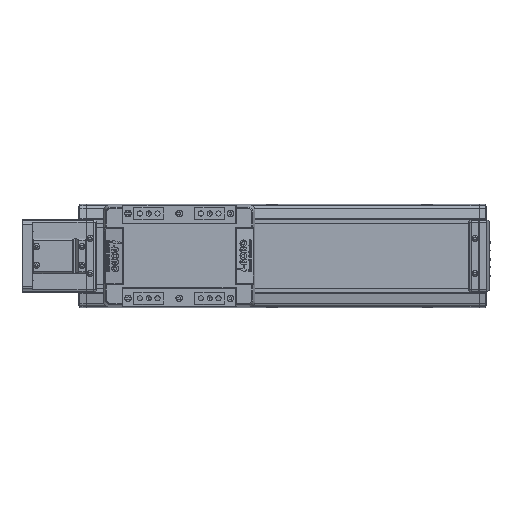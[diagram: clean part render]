
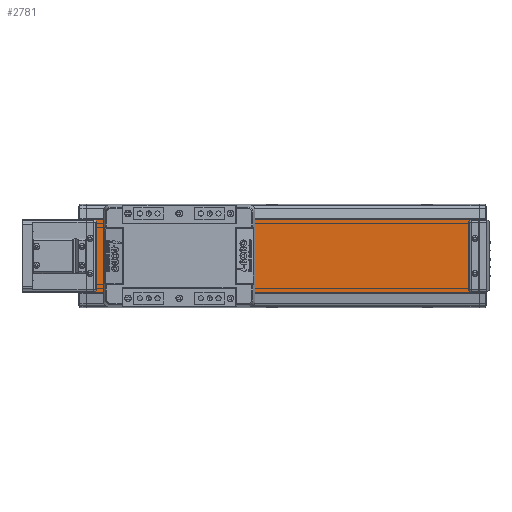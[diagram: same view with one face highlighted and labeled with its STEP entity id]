
A CAD part, top view. The second image highlights one B-rep face of the part: STEP entity #2781.
In plain terms, the highlighted planar face has unit normal (0, 0, 1).
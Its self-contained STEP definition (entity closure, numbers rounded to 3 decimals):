
#2781=ADVANCED_FACE('',(#7721),#7722,.T.);
#7721=FACE_OUTER_BOUND('',#15406,.T.);
#7722=PLANE('',#15407);
#15406=EDGE_LOOP('',(#23733,#23734,#23735,#23736));
#15407=AXIS2_PLACEMENT_3D('',#23737,#23738,#23739);
#23733=ORIENTED_EDGE('',*,*,#45446,.T.);
#23734=ORIENTED_EDGE('',*,*,#45447,.F.);
#23735=ORIENTED_EDGE('',*,*,#45448,.T.);
#23736=ORIENTED_EDGE('',*,*,#45449,.T.);
#23737=CARTESIAN_POINT('',(-580.,0.,20.15));
#23738=DIRECTION('',(0.,0.,1.0));
#23739=DIRECTION('',(0.,-1.0,0.));
#45446=EDGE_CURVE('',#54073,#54074,#54075,.T.);
#45447=EDGE_CURVE('',#54076,#54074,#54077,.T.);
#45448=EDGE_CURVE('',#54076,#54078,#54079,.T.);
#45449=EDGE_CURVE('',#54078,#54073,#54080,.T.);
#54073=VERTEX_POINT('',#66702);
#54074=VERTEX_POINT('',#66703);
#54075=LINE('',#66704,#66705);
#54076=VERTEX_POINT('',#66706);
#54077=LINE('',#66707,#66708);
#54078=VERTEX_POINT('',#66709);
#54079=LINE('',#66710,#66711);
#54080=LINE('',#66712,#66713);
#66702=CARTESIAN_POINT('',(-200.,-35.,20.15));
#66703=CARTESIAN_POINT('',(-200.,35.,20.15));
#66704=CARTESIAN_POINT('',(-200.,35.,20.15));
#66705=VECTOR('',#84454,10.0);
#66706=CARTESIAN_POINT('',(-580.,35.,20.15));
#66707=CARTESIAN_POINT('',(-580.,35.,20.15));
#66708=VECTOR('',#84455,10.0);
#66709=CARTESIAN_POINT('',(-580.,-35.,20.15));
#66710=CARTESIAN_POINT('',(-580.,35.,20.15));
#66711=VECTOR('',#84456,10.0);
#66712=CARTESIAN_POINT('',(-580.,-35.,20.15));
#66713=VECTOR('',#84457,10.0);
#84454=DIRECTION('',(0.,1.0,0.));
#84455=DIRECTION('',(1.0,0.,0.));
#84456=DIRECTION('',(0.,-1.0,0.));
#84457=DIRECTION('',(1.0,0.,0.));
